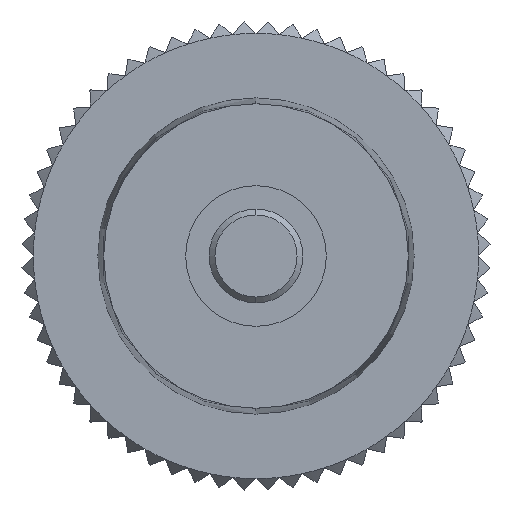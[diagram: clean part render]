
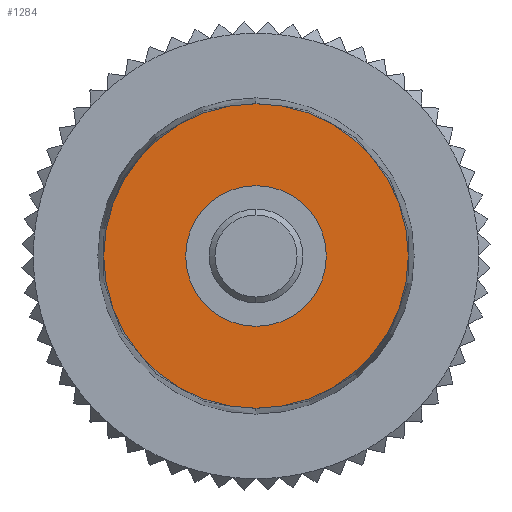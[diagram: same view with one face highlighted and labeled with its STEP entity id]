
A CAD part, front view. The second image highlights one B-rep face of the part: STEP entity #1284.
In plain terms, the highlighted planar face has unit normal (0, -1, 0).
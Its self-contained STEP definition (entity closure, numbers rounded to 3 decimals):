
#1284 = ADVANCED_FACE ( 'NONE', ( #5278, #5277 ), #5276, .T. ) ;
#1285 = EDGE_LOOP ( 'NONE', ( #1340, #1342 ) ) ;
#1340 = ORIENTED_EDGE ( 'NONE', *, *, #1341, .F. ) ;
#1341 = EDGE_CURVE ( 'NONE', #2380, #2379, #5407, .T. ) ;
#1342 = ORIENTED_EDGE ( 'NONE', *, *, #2382, .F. ) ;
#1343 = EDGE_LOOP ( 'NONE', ( #1344, #1346 ) ) ;
#1344 = ORIENTED_EDGE ( 'NONE', *, *, #1345, .T. ) ;
#1345 = EDGE_CURVE ( 'NONE', #8490, #8580, #5403, .T. ) ;
#1346 = ORIENTED_EDGE ( 'NONE', *, *, #8640, .T. ) ;
#2379 = VERTEX_POINT ( 'NONE', #6722 ) ;
#2380 = VERTEX_POINT ( 'NONE', #6721 ) ;
#2382 = EDGE_CURVE ( 'NONE', #2379, #2380, #6719, .T. ) ;
#5272 = DIRECTION ( 'NONE',  ( 0., 0., -1. ) ) ;
#5273 = DIRECTION ( 'NONE',  ( 0., -1., 0. ) ) ;
#5274 = CARTESIAN_POINT ( 'NONE',  ( 0., 0., 0. ) ) ;
#5275 = AXIS2_PLACEMENT_3D ( 'NONE', #5274, #5273, #5272 ) ;
#5276 = PLANE ( 'NONE',  #5275 ) ;
#5277 = FACE_OUTER_BOUND ( 'NONE', #1343, .T. ) ;
#5278 = FACE_BOUND ( 'NONE', #1285, .T. ) ;
#5398 = DIRECTION ( 'NONE',  ( 0., 0., -1. ) ) ;
#5400 = DIRECTION ( 'NONE',  ( 0., -1., 0. ) ) ;
#5401 = CARTESIAN_POINT ( 'NONE',  ( 0., 0., 0. ) ) ;
#5402 = AXIS2_PLACEMENT_3D ( 'NONE', #5401, #5400, #5398 ) ;
#5403 = CIRCLE ( 'NONE', #5402, 6.5 ) ;
#5404 = DIRECTION ( 'NONE',  ( 0., 0., -1. ) ) ;
#5405 = DIRECTION ( 'NONE',  ( 0., -1., 0. ) ) ;
#5406 = AXIS2_PLACEMENT_3D ( 'NONE', #5412, #5405, #5404 ) ;
#5407 = CIRCLE ( 'NONE', #5406, 3. ) ;
#5412 = CARTESIAN_POINT ( 'NONE',  ( 0., 0., 0. ) ) ;
#6715 = DIRECTION ( 'NONE',  ( 0., 0., -1. ) ) ;
#6716 = DIRECTION ( 'NONE',  ( 0., -1., 0. ) ) ;
#6717 = CARTESIAN_POINT ( 'NONE',  ( 0., 0., 0. ) ) ;
#6718 = AXIS2_PLACEMENT_3D ( 'NONE', #6717, #6716, #6715 ) ;
#6719 = CIRCLE ( 'NONE', #6718, 3. ) ;
#6721 = CARTESIAN_POINT ( 'NONE',  ( 0., 0., -3. ) ) ;
#6722 = CARTESIAN_POINT ( 'NONE',  ( 0., 0., 3. ) ) ;
#7568 = CARTESIAN_POINT ( 'NONE',  ( 0., 0., 6.5 ) ) ;
#7766 = CARTESIAN_POINT ( 'NONE',  ( 0., 0., -6.5 ) ) ;
#7876 = DIRECTION ( 'NONE',  ( 0., 0., -1. ) ) ;
#7877 = DIRECTION ( 'NONE',  ( 0., -1., 0. ) ) ;
#7878 = CARTESIAN_POINT ( 'NONE',  ( 0., 0., 0. ) ) ;
#7879 = AXIS2_PLACEMENT_3D ( 'NONE', #7878, #7877, #7876 ) ;
#7880 = CIRCLE ( 'NONE', #7879, 6.5 ) ;
#8490 = VERTEX_POINT ( 'NONE', #7568 ) ;
#8580 = VERTEX_POINT ( 'NONE', #7766 ) ;
#8640 = EDGE_CURVE ( 'NONE', #8580, #8490, #7880, .T. ) ;
